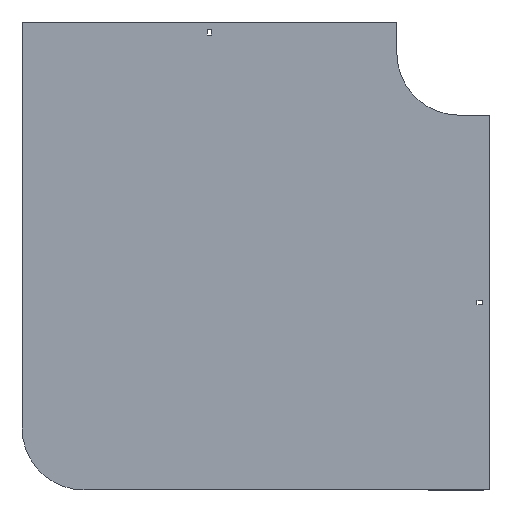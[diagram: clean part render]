
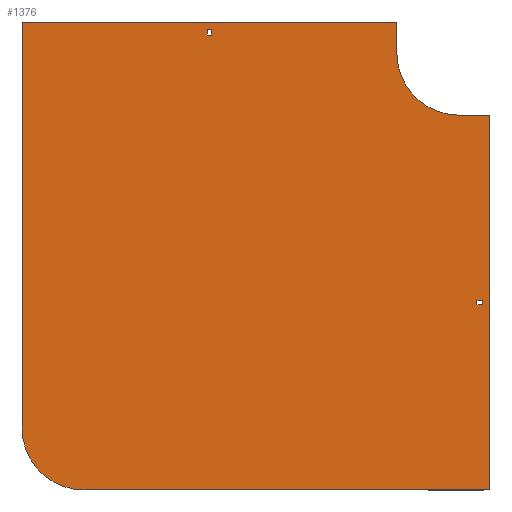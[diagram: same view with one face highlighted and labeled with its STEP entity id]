
A CAD part, front view. The second image highlights one B-rep face of the part: STEP entity #1376.
In plain terms, the highlighted planar face has unit normal (0, -1, 0).
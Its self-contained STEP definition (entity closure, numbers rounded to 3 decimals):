
#4 = CARTESIAN_POINT ( 'NONE',  ( -398.75, 0., 29. ) ) ;
#17 = ORIENTED_EDGE ( 'NONE', *, *, #379, .F. ) ;
#23 = CARTESIAN_POINT ( 'NONE',  ( -405.25, 0., 38. ) ) ;
#35 = CARTESIAN_POINT ( 'NONE',  ( 0., 0., 0. ) ) ;
#77 = CARTESIAN_POINT ( 'NONE',  ( 50., 0., -100. ) ) ;
#95 = DIRECTION ( 'NONE',  ( 1., 0., 0. ) ) ;
#98 = ORIENTED_EDGE ( 'NONE', *, *, #1015, .T. ) ;
#103 = EDGE_CURVE ( 'NONE', #770, #393, #1405, .T. ) ;
#129 = FACE_BOUND ( 'NONE', #1288, .T. ) ;
#133 = VECTOR ( 'NONE', #1078, 1000. ) ;
#142 = CARTESIAN_POINT ( 'NONE',  ( 38., 0., -405.25 ) ) ;
#145 = VERTEX_POINT ( 'NONE', #505 ) ;
#147 = CARTESIAN_POINT ( 'NONE',  ( -405.25, 0., 29. ) ) ;
#149 = CARTESIAN_POINT ( 'NONE',  ( -405.25, 0., 29. ) ) ;
#152 = DIRECTION ( 'NONE',  ( -1., 0., 0. ) ) ;
#180 = VECTOR ( 'NONE', #898, 1000. ) ;
#181 = VERTEX_POINT ( 'NONE', #1323 ) ;
#192 = ORIENTED_EDGE ( 'NONE', *, *, #1088, .F. ) ;
#193 = CARTESIAN_POINT ( 'NONE',  ( -604., 0., -704. ) ) ;
#204 = ORIENTED_EDGE ( 'NONE', *, *, #263, .F. ) ;
#210 = VERTEX_POINT ( 'NONE', #1350 ) ;
#215 = ORIENTED_EDGE ( 'NONE', *, *, #474, .F. ) ;
#220 = ORIENTED_EDGE ( 'NONE', *, *, #1354, .T. ) ;
#260 = CARTESIAN_POINT ( 'NONE',  ( 38., 0., -398.75 ) ) ;
#263 = EDGE_CURVE ( 'NONE', #896, #1316, #687, .T. ) ;
#270 = CARTESIAN_POINT ( 'NONE',  ( -100., 0., 50. ) ) ;
#276 = EDGE_CURVE ( 'NONE', #1130, #781, #1353, .T. ) ;
#279 = LINE ( 'NONE', #512, #1178 ) ;
#309 = ORIENTED_EDGE ( 'NONE', *, *, #276, .F. ) ;
#321 = CARTESIAN_POINT ( 'NONE',  ( -405.25, 0., 29. ) ) ;
#344 = DIRECTION ( 'NONE',  ( -1., 0., 0. ) ) ;
#348 = ORIENTED_EDGE ( 'NONE', *, *, #103, .T. ) ;
#361 = CARTESIAN_POINT ( 'NONE',  ( -100., 0., 0. ) ) ;
#365 = CARTESIAN_POINT ( 'NONE',  ( 0., 0., -100. ) ) ;
#375 = FACE_BOUND ( 'NONE', #964, .T. ) ;
#379 = EDGE_CURVE ( 'NONE', #714, #1130, #279, .T. ) ;
#393 = VERTEX_POINT ( 'NONE', #553 ) ;
#404 = ORIENTED_EDGE ( 'NONE', *, *, #1297, .F. ) ;
#413 = EDGE_LOOP ( 'NONE', ( #404, #192, #309, #17, #613, #204, #1189, #1251 ) ) ;
#440 = VECTOR ( 'NONE', #552, 1000. ) ;
#441 = VERTEX_POINT ( 'NONE', #1271 ) ;
#442 = VECTOR ( 'NONE', #1400, 1000. ) ;
#474 = EDGE_CURVE ( 'NONE', #1279, #441, #1070, .T. ) ;
#481 = DIRECTION ( 'NONE',  ( 0., 0., -1. ) ) ;
#505 = CARTESIAN_POINT ( 'NONE',  ( -405.25, 0., 38. ) ) ;
#512 = CARTESIAN_POINT ( 'NONE',  ( 50., 0., -704. ) ) ;
#531 = EDGE_CURVE ( 'NONE', #1246, #896, #926, .T. ) ;
#552 = DIRECTION ( 'NONE',  ( 0., 0., 1. ) ) ;
#553 = CARTESIAN_POINT ( 'NONE',  ( -398.75, 0., 29. ) ) ;
#564 = ORIENTED_EDGE ( 'NONE', *, *, #975, .F. ) ;
#590 = CARTESIAN_POINT ( 'NONE',  ( 29., 0., -398.75 ) ) ;
#593 = DIRECTION ( 'NONE',  ( 0., 0., 1. ) ) ;
#597 = DIRECTION ( 'NONE',  ( -1., 0., 0. ) ) ;
#598 = CARTESIAN_POINT ( 'NONE',  ( 29., 0., -405.25 ) ) ;
#609 = CARTESIAN_POINT ( 'NONE',  ( -398.75, 0., 38. ) ) ;
#613 = ORIENTED_EDGE ( 'NONE', *, *, #828, .F. ) ;
#624 = VECTOR ( 'NONE', #95, 1000. ) ;
#627 = AXIS2_PLACEMENT_3D ( 'NONE', #743, #1275, #651 ) ;
#647 = VECTOR ( 'NONE', #593, 1000. ) ;
#648 = VERTEX_POINT ( 'NONE', #590 ) ;
#651 = DIRECTION ( 'NONE',  ( 0., 0., 1. ) ) ;
#661 = CARTESIAN_POINT ( 'NONE',  ( 50., 0., -100. ) ) ;
#679 = DIRECTION ( 'NONE',  ( 0., 0., -1. ) ) ;
#687 = LINE ( 'NONE', #1301, #1262 ) ;
#699 = DIRECTION ( 'NONE',  ( 0., -1., 0. ) ) ;
#710 = ORIENTED_EDGE ( 'NONE', *, *, #1166, .T. ) ;
#714 = VERTEX_POINT ( 'NONE', #1026 ) ;
#743 = CARTESIAN_POINT ( 'NONE',  ( -604., 0., -604. ) ) ;
#760 = DIRECTION ( 'NONE',  ( 0., 0., -1. ) ) ;
#770 = VERTEX_POINT ( 'NONE', #609 ) ;
#775 = VERTEX_POINT ( 'NONE', #260 ) ;
#781 = VERTEX_POINT ( 'NONE', #1209 ) ;
#801 = FACE_OUTER_BOUND ( 'NONE', #413, .T. ) ;
#805 = ORIENTED_EDGE ( 'NONE', *, *, #1256, .F. ) ;
#809 = AXIS2_PLACEMENT_3D ( 'NONE', #35, #699, #1012 ) ;
#828 = EDGE_CURVE ( 'NONE', #1316, #714, #1167, .T. ) ;
#835 = VERTEX_POINT ( 'NONE', #147 ) ;
#851 = LINE ( 'NONE', #1269, #440 ) ;
#879 = DIRECTION ( 'NONE',  ( 1., 0., 0. ) ) ;
#896 = VERTEX_POINT ( 'NONE', #365 ) ;
#898 = DIRECTION ( 'NONE',  ( 1., 0., 0. ) ) ;
#904 = VECTOR ( 'NONE', #1107, 1000. ) ;
#914 = EDGE_CURVE ( 'NONE', #181, #1246, #1335, .T. ) ;
#926 = CIRCLE ( 'NONE', #1103, 100. ) ;
#964 = EDGE_LOOP ( 'NONE', ( #710, #220, #348, #98 ) ) ;
#975 = EDGE_CURVE ( 'NONE', #775, #648, #987, .T. ) ;
#987 = LINE ( 'NONE', #1197, #1173 ) ;
#1002 = LINE ( 'NONE', #23, #180 ) ;
#1004 = CARTESIAN_POINT ( 'NONE',  ( 29., 0., -405.25 ) ) ;
#1012 = DIRECTION ( 'NONE',  ( 0., 0., -1. ) ) ;
#1015 = EDGE_CURVE ( 'NONE', #393, #835, #1110, .T. ) ;
#1023 = ORIENTED_EDGE ( 'NONE', *, *, #1274, .F. ) ;
#1026 = CARTESIAN_POINT ( 'NONE',  ( 50., 0., -704. ) ) ;
#1070 = LINE ( 'NONE', #1289, #442 ) ;
#1078 = DIRECTION ( 'NONE',  ( 0., 0., 1. ) ) ;
#1088 = EDGE_CURVE ( 'NONE', #781, #210, #851, .T. ) ;
#1096 = LINE ( 'NONE', #142, #647 ) ;
#1103 = AXIS2_PLACEMENT_3D ( 'NONE', #1221, #1239, #481 ) ;
#1107 = DIRECTION ( 'NONE',  ( 0., 0., -1. ) ) ;
#1110 = LINE ( 'NONE', #149, #1281 ) ;
#1118 = VECTOR ( 'NONE', #1237, 1000. ) ;
#1130 = VERTEX_POINT ( 'NONE', #193 ) ;
#1154 = CARTESIAN_POINT ( 'NONE',  ( -704., 0., 50. ) ) ;
#1166 = EDGE_CURVE ( 'NONE', #835, #145, #1394, .T. ) ;
#1167 = LINE ( 'NONE', #661, #904 ) ;
#1173 = VECTOR ( 'NONE', #344, 1000. ) ;
#1178 = VECTOR ( 'NONE', #152, 1000. ) ;
#1189 = ORIENTED_EDGE ( 'NONE', *, *, #531, .F. ) ;
#1197 = CARTESIAN_POINT ( 'NONE',  ( 29., 0., -398.75 ) ) ;
#1209 = CARTESIAN_POINT ( 'NONE',  ( -704., 0., -604. ) ) ;
#1216 = LINE ( 'NONE', #1154, #624 ) ;
#1221 = CARTESIAN_POINT ( 'NONE',  ( 0., 0., 0. ) ) ;
#1233 = VECTOR ( 'NONE', #679, 1000. ) ;
#1237 = DIRECTION ( 'NONE',  ( 0., 0., -1. ) ) ;
#1239 = DIRECTION ( 'NONE',  ( 0., -1., 0. ) ) ;
#1246 = VERTEX_POINT ( 'NONE', #361 ) ;
#1251 = ORIENTED_EDGE ( 'NONE', *, *, #914, .F. ) ;
#1256 = EDGE_CURVE ( 'NONE', #648, #1279, #1299, .T. ) ;
#1262 = VECTOR ( 'NONE', #879, 1000. ) ;
#1269 = CARTESIAN_POINT ( 'NONE',  ( -704., 0., -604. ) ) ;
#1271 = CARTESIAN_POINT ( 'NONE',  ( 38., 0., -405.25 ) ) ;
#1274 = EDGE_CURVE ( 'NONE', #441, #775, #1096, .T. ) ;
#1275 = DIRECTION ( 'NONE',  ( 0., 1., 0. ) ) ;
#1279 = VERTEX_POINT ( 'NONE', #1004 ) ;
#1281 = VECTOR ( 'NONE', #597, 1000. ) ;
#1288 = EDGE_LOOP ( 'NONE', ( #1023, #215, #805, #564 ) ) ;
#1289 = CARTESIAN_POINT ( 'NONE',  ( 29., 0., -405.25 ) ) ;
#1297 = EDGE_CURVE ( 'NONE', #210, #181, #1216, .T. ) ;
#1299 = LINE ( 'NONE', #598, #1233 ) ;
#1301 = CARTESIAN_POINT ( 'NONE',  ( 0., 0., -100. ) ) ;
#1316 = VERTEX_POINT ( 'NONE', #77 ) ;
#1320 = PLANE ( 'NONE',  #809 ) ;
#1323 = CARTESIAN_POINT ( 'NONE',  ( -100., 0., 50. ) ) ;
#1335 = LINE ( 'NONE', #270, #1118 ) ;
#1350 = CARTESIAN_POINT ( 'NONE',  ( -704., 0., 50. ) ) ;
#1353 = CIRCLE ( 'NONE', #627, 100. ) ;
#1354 = EDGE_CURVE ( 'NONE', #145, #770, #1002, .T. ) ;
#1376 = ADVANCED_FACE ( 'NONE', ( #375, #801, #129 ), #1320, .T. ) ;
#1379 = VECTOR ( 'NONE', #760, 1000. ) ;
#1394 = LINE ( 'NONE', #321, #133 ) ;
#1400 = DIRECTION ( 'NONE',  ( 1., 0., 0. ) ) ;
#1405 = LINE ( 'NONE', #4, #1379 ) ;
